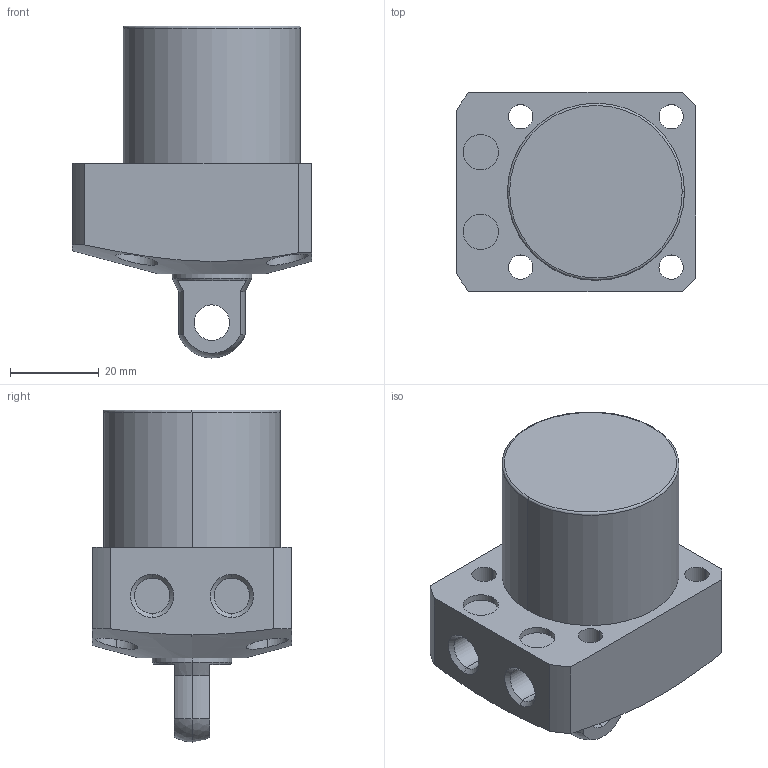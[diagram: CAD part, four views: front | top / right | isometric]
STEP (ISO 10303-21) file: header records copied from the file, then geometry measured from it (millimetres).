
FILE_DESCRIPTION (( 'STEP AP203' ), '1' );
FILE_NAME ('CLL-0400-CP-20.STEP', '2017-05-09T06:29:55', ( '' ), ( '' ), 'SwSTEP 2.0', 'SolidWorks 2015', '' );
FILE_SCHEMA (( 'CONFIG_CONTROL_DESIGN' ));
Length unit declared in the file: millimetre
Products named in the file (1): CLL-0400-CP-20
Bounding box: 54 x 45 x 75 mm (x, y, z)
Volume: 90999.2 mm3; surface area: 15824.5 mm2
Topology: 1 solids, 1 shells, 68 faces, 159 edges, 103 vertices
Faces by surface type: cylinder 35, plane 21, cone 8, sphere 2, torus 2
Entity records: 2379 total; most frequent: CARTESIAN_POINT 682, DIRECTION 357, ORIENTED_EDGE 318, EDGE_CURVE 159, AXIS2_PLACEMENT_3D 149, VERTEX_POINT 103, EDGE_LOOP 88, CIRCLE 80
